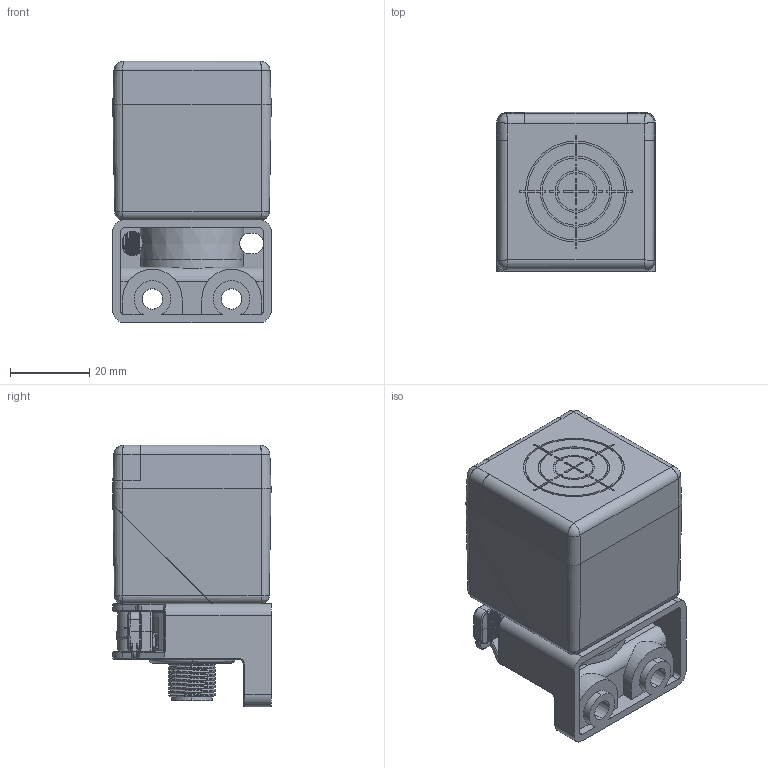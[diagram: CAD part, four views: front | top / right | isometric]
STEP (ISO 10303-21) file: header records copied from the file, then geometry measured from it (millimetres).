
FILE_DESCRIPTION (( 'STEP AP214' ), '1' );
FILE_NAME ('CK40-3D.STEP', '2020-01-10T08:26:38', ( 'Windows' ), ( 'Microsoft' ), 'SwSTEP 2.0', 'SolidWorks 2012', '' );
FILE_SCHEMA (( 'AUTOMOTIVE_DESIGN' ));
Length unit declared in the file: millimetre
Products named in the file (1): CK40-3D
Bounding box: 40 x 40.07 x 66 mm (x, y, z)
Volume: 69215.3 mm3; surface area: 32706.2 mm2
Topology: 2 solids, 3 shells, 1374 faces, 3717 edges, 2330 vertices
Faces by surface type: plane 749, cylinder 329, bspline 158, cone 132, torus 6
Entity records: 68800 total; most frequent: CARTESIAN_POINT 22157, ORIENTED_EDGE 7362, DIRECTION 6014, EDGE_CURVE 3681, VERTEX_POINT 2330, LINE 2172, VECTOR 2172, AXIS2_PLACEMENT_3D 1921
